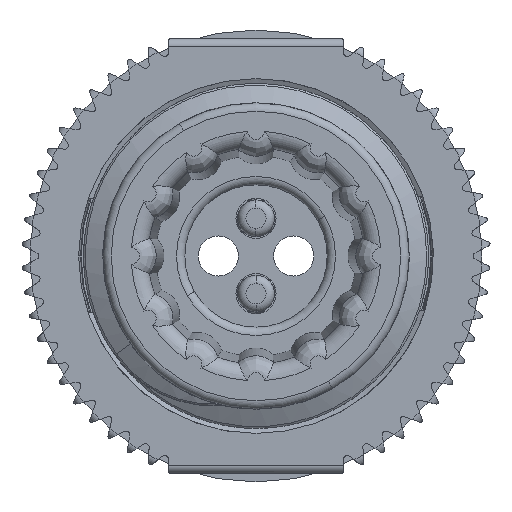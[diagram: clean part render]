
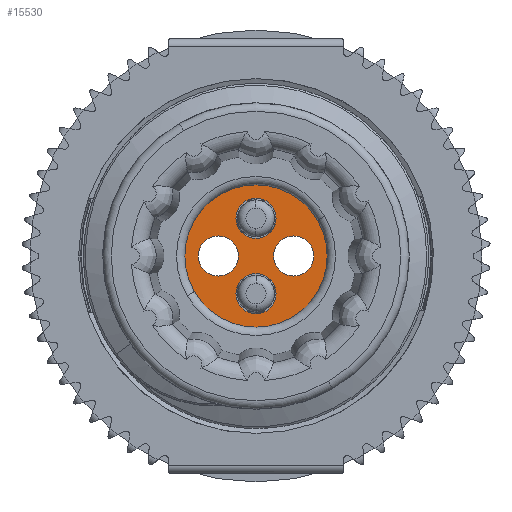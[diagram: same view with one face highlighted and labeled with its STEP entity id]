
A CAD part, left-side view. The second image highlights one B-rep face of the part: STEP entity #15530.
In plain terms, the highlighted planar face has unit normal (-1, 0, 0) as drawn and (0, 0, -1) by its records, which use the part's own axes.
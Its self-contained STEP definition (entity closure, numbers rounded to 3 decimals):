
#14730=CARTESIAN_POINT('',(0.,0.,0.));
#14740=DIRECTION('',(0.,0.,1.));
#14750=DIRECTION('',(1.,0.,0.));
#14760=AXIS2_PLACEMENT_3D('',#14730,#14740,#14750);
#14770=PLANE('',#14760);
#14780=CARTESIAN_POINT('',(25.06,70.41,0.));
#14790=DIRECTION('',(0.,0.,1.));
#14800=DIRECTION('',(1.,0.,0.));
#14810=AXIS2_PLACEMENT_3D('',#14780,#14790,#14800);
#14820=CIRCLE('',#14810,1.2);
#14830=CARTESIAN_POINT('',(26.26,70.41,0.));
#14840=VERTEX_POINT('',#14830);
#14850=CARTESIAN_POINT('',(23.86,70.41,0.));
#14860=VERTEX_POINT('',#14850);
#14870=EDGE_CURVE('',#14840,#14860,#14820,.T.);
#14880=ORIENTED_EDGE('',*,*,#14870,.T.);
#14890=EDGE_CURVE('',#14860,#14840,#14820,.T.);
#14900=ORIENTED_EDGE('',*,*,#14890,.T.);
#14910=EDGE_LOOP('',(#14900,#14880));
#14920=FACE_BOUND('',#14910,.T.);
#14930=CARTESIAN_POINT('',(22.81,68.16,0.));
#14940=DIRECTION('',(0.,0.,1.));
#14950=DIRECTION('',(1.,0.,0.));
#14960=AXIS2_PLACEMENT_3D('',#14930,#14940,#14950);
#14970=CIRCLE('',#14960,1.2);
#14980=CARTESIAN_POINT('',(24.01,68.16,0.));
#14990=VERTEX_POINT('',#14980);
#15000=CARTESIAN_POINT('',(21.61,68.16,0.));
#15010=VERTEX_POINT('',#15000);
#15020=EDGE_CURVE('',#14990,#15010,#14970,.T.);
#15030=ORIENTED_EDGE('',*,*,#15020,.T.);
#15040=EDGE_CURVE('',#15010,#14990,#14970,.T.);
#15050=ORIENTED_EDGE('',*,*,#15040,.T.);
#15060=EDGE_LOOP('',(#15050,#15030));
#15070=FACE_BOUND('',#15060,.T.);
#15080=CARTESIAN_POINT('',(25.06,65.91,0.));
#15090=DIRECTION('',(0.,0.,1.));
#15100=DIRECTION('',(1.,0.,0.));
#15110=AXIS2_PLACEMENT_3D('',#15080,#15090,#15100);
#15120=CIRCLE('',#15110,1.2);
#15130=CARTESIAN_POINT('',(26.26,65.91,0.));
#15140=VERTEX_POINT('',#15130);
#15150=CARTESIAN_POINT('',(23.86,65.91,0.));
#15160=VERTEX_POINT('',#15150);
#15170=EDGE_CURVE('',#15140,#15160,#15120,.T.);
#15180=ORIENTED_EDGE('',*,*,#15170,.T.);
#15190=EDGE_CURVE('',#15160,#15140,#15120,.T.);
#15200=ORIENTED_EDGE('',*,*,#15190,.T.);
#15210=EDGE_LOOP('',(#15200,#15180));
#15220=FACE_BOUND('',#15210,.T.);
#15230=CARTESIAN_POINT('',(27.31,68.16,0.));
#15240=DIRECTION('',(0.,0.,1.));
#15250=DIRECTION('',(1.,0.,0.));
#15260=AXIS2_PLACEMENT_3D('',#15230,#15240,#15250);
#15270=CIRCLE('',#15260,1.2);
#15280=CARTESIAN_POINT('',(28.51,68.16,0.));
#15290=VERTEX_POINT('',#15280);
#15300=CARTESIAN_POINT('',(26.11,68.16,0.));
#15310=VERTEX_POINT('',#15300);
#15320=EDGE_CURVE('',#15290,#15310,#15270,.T.);
#15330=ORIENTED_EDGE('',*,*,#15320,.T.);
#15340=EDGE_CURVE('',#15310,#15290,#15270,.T.);
#15350=ORIENTED_EDGE('',*,*,#15340,.T.);
#15360=EDGE_LOOP('',(#15350,#15330));
#15370=FACE_BOUND('',#15360,.T.);
#15380=CARTESIAN_POINT('',(25.06,68.16,0.));
#15390=DIRECTION('',(0.,0.,1.));
#15400=DIRECTION('',(1.,0.,0.));
#15410=AXIS2_PLACEMENT_3D('',#15380,#15390,#15400);
#15420=CIRCLE('',#15410,5.75);
#15430=CARTESIAN_POINT('',(30.81,68.16,0.));
#15440=VERTEX_POINT('',#15430);
#15450=CARTESIAN_POINT('',(19.31,68.16,0.));
#15460=VERTEX_POINT('',#15450);
#15470=EDGE_CURVE('',#15440,#15460,#15420,.T.);
#15480=ORIENTED_EDGE('',*,*,#15470,.F.);
#15490=EDGE_CURVE('',#15460,#15440,#15420,.T.);
#15500=ORIENTED_EDGE('',*,*,#15490,.F.);
#15510=EDGE_LOOP('',(#15500,#15480));
#15520=FACE_OUTER_BOUND('',#15510,.T.);
#15530=ADVANCED_FACE('',(#14920,#15070,#15220,#15370,#15520),#14770,.F.)
;
